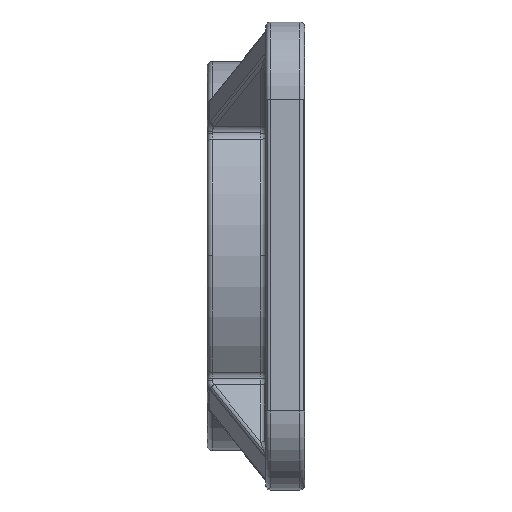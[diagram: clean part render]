
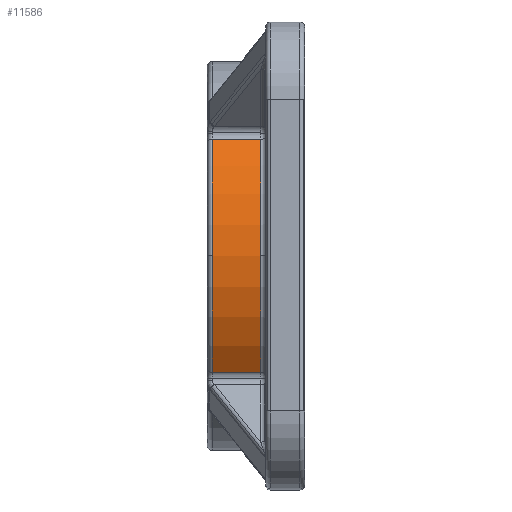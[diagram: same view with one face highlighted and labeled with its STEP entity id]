
A CAD part, top view. The second image highlights one B-rep face of the part: STEP entity #11586.
In plain terms, the highlighted cylindrical face has radius 10 mm (diameter 20 mm), a partial arc.
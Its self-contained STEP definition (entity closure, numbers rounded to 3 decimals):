
#319 = CARTESIAN_POINT ( 'NONE',  ( -2.75, 5.988, 8.009 ) ) ;
#460 = CIRCLE ( 'NONE', #14297, 10. ) ;
#492 = AXIS2_PLACEMENT_3D ( 'NONE', #7109, #9428, #9518 ) ;
#956 = DIRECTION ( 'NONE',  ( -1., 0., 0. ) ) ;
#1374 = CARTESIAN_POINT ( 'NONE',  ( 0., -5.988, 8.009 ) ) ;
#1454 = CARTESIAN_POINT ( 'NONE',  ( -0.25, 5.988, 8.009 ) ) ;
#1811 = FACE_OUTER_BOUND ( 'NONE', #3517, .T. ) ;
#2021 = CARTESIAN_POINT ( 'NONE',  ( -0.25, 0., 10. ) ) ;
#2600 = AXIS2_PLACEMENT_3D ( 'NONE', #7706, #956, #8846 ) ;
#2775 = ORIENTED_EDGE ( 'NONE', *, *, #12332, .F. ) ;
#2820 = EDGE_CURVE ( 'NONE', #5293, #11606, #8596, .T. ) ;
#3005 = CARTESIAN_POINT ( 'NONE',  ( -2.75, 0., 10. ) ) ;
#3517 = EDGE_LOOP ( 'NONE', ( #2775, #13685, #3919, #13687, #13101, #4876 ) ) ;
#3919 = ORIENTED_EDGE ( 'NONE', *, *, #2820, .F. ) ;
#4469 = DIRECTION ( 'NONE',  ( 0., 0.316, 0.949 ) ) ;
#4541 = EDGE_CURVE ( 'NONE', #6600, #13431, #9966, .T. ) ;
#4575 = CIRCLE ( 'NONE', #2600, 10. ) ;
#4876 = ORIENTED_EDGE ( 'NONE', *, *, #13652, .F. ) ;
#4883 = AXIS2_PLACEMENT_3D ( 'NONE', #6710, #6513, #11344 ) ;
#5272 = DIRECTION ( 'NONE',  ( 1., 0., 0. ) ) ;
#5293 = VERTEX_POINT ( 'NONE', #2021 ) ;
#6379 = CYLINDRICAL_SURFACE ( 'NONE', #492, 10. ) ;
#6483 = VERTEX_POINT ( 'NONE', #6816 ) ;
#6513 = DIRECTION ( 'NONE',  ( 1., 0., 0. ) ) ;
#6600 = VERTEX_POINT ( 'NONE', #319 ) ;
#6710 = CARTESIAN_POINT ( 'NONE',  ( -0.25, 0., 0. ) ) ;
#6816 = CARTESIAN_POINT ( 'NONE',  ( -2.75, -5.988, 8.009 ) ) ;
#7109 = CARTESIAN_POINT ( 'NONE',  ( 0., 0., 0. ) ) ;
#7706 = CARTESIAN_POINT ( 'NONE',  ( -2.75, 0., 0. ) ) ;
#8277 = DIRECTION ( 'NONE',  ( 1., 0., 0. ) ) ;
#8340 = DIRECTION ( 'NONE',  ( 0., 0.316, 0.949 ) ) ;
#8506 = EDGE_CURVE ( 'NONE', #13431, #5293, #460, .T. ) ;
#8588 = CARTESIAN_POINT ( 'NONE',  ( -0.25, -5.988, 8.009 ) ) ;
#8596 = CIRCLE ( 'NONE', #4883, 10. ) ;
#8846 = DIRECTION ( 'NONE',  ( 0., 0.316, 0.949 ) ) ;
#8992 = EDGE_CURVE ( 'NONE', #6483, #11606, #11012, .T. ) ;
#9428 = DIRECTION ( 'NONE',  ( -1., 0., 0. ) ) ;
#9518 = DIRECTION ( 'NONE',  ( 0., 1., 0. ) ) ;
#9559 = CARTESIAN_POINT ( 'NONE',  ( -0.25, 0., 0. ) ) ;
#9720 = CIRCLE ( 'NONE', #11162, 10. ) ;
#9966 = LINE ( 'NONE', #9981, #12951 ) ;
#9981 = CARTESIAN_POINT ( 'NONE',  ( 0., 5.988, 8.009 ) ) ;
#10491 = VECTOR ( 'NONE', #8277, 1000. ) ;
#10695 = DIRECTION ( 'NONE',  ( 1., 0., 0. ) ) ;
#11012 = LINE ( 'NONE', #1374, #10491 ) ;
#11162 = AXIS2_PLACEMENT_3D ( 'NONE', #13273, #11226, #4469 ) ;
#11226 = DIRECTION ( 'NONE',  ( -1., 0., 0. ) ) ;
#11344 = DIRECTION ( 'NONE',  ( 0., 0.316, 0.949 ) ) ;
#11586 = ADVANCED_FACE ( 'NONE', ( #1811 ), #6379, .T. ) ;
#11606 = VERTEX_POINT ( 'NONE', #8588 ) ;
#12332 = EDGE_CURVE ( 'NONE', #6483, #14010, #9720, .T. ) ;
#12951 = VECTOR ( 'NONE', #5272, 1000. ) ;
#13101 = ORIENTED_EDGE ( 'NONE', *, *, #4541, .F. ) ;
#13273 = CARTESIAN_POINT ( 'NONE',  ( -2.75, 0., 0. ) ) ;
#13431 = VERTEX_POINT ( 'NONE', #1454 ) ;
#13652 = EDGE_CURVE ( 'NONE', #14010, #6600, #4575, .T. ) ;
#13685 = ORIENTED_EDGE ( 'NONE', *, *, #8992, .T. ) ;
#13687 = ORIENTED_EDGE ( 'NONE', *, *, #8506, .F. ) ;
#14010 = VERTEX_POINT ( 'NONE', #3005 ) ;
#14297 = AXIS2_PLACEMENT_3D ( 'NONE', #9559, #10695, #8340 ) ;
